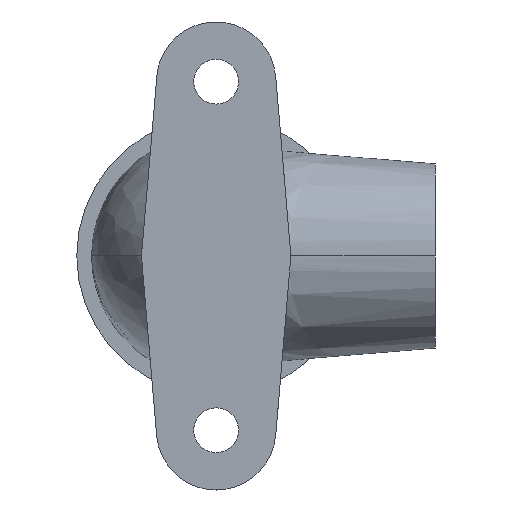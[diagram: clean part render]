
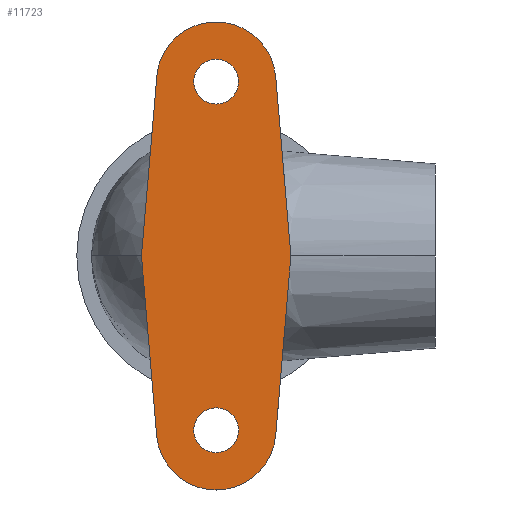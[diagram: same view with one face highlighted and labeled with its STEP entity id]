
A CAD part, front view. The second image highlights one B-rep face of the part: STEP entity #11723.
In plain terms, the highlighted planar face has unit normal (0, 1, 0).
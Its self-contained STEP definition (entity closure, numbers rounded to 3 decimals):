
#11617=CARTESIAN_POINT('',(-7.59,-10.0,0.0));
#11618=DIRECTION('',(0.0,1.0,0.0));
#11619=DIRECTION('',(0.0,0.0,1.0));
#11620=AXIS2_PLACEMENT_3D('',#11617,#11618,#11619);
#11621=PLANE('',#11620);
#11622=CARTESIAN_POINT('',(5.979,-10.0,-18.005));
#11623=VERTEX_POINT('',#11622);
#11624=CARTESIAN_POINT('',(0.,-10.0,-23.5));
#11625=VERTEX_POINT('',#11624);
#11626=CARTESIAN_POINT('',(0.,-10.0,-17.5));
#11627=DIRECTION('',(0.,1.0,0.));
#11628=DIRECTION('',(0.996,0.,-0.084));
#11629=AXIS2_PLACEMENT_3D('',#11626,#11627,#11628);
#11630=CIRCLE('',#11629,6.0);
#11631=EDGE_CURVE('',#11623,#11625,#11630,.T.);
#11632=ORIENTED_EDGE('',*,*,#11631,.T.);
#11633=CARTESIAN_POINT('',(-5.979,-10.0,-18.005));
#11634=VERTEX_POINT('',#11633);
#11635=CARTESIAN_POINT('',(0.0,-10.0,-17.5));
#11636=DIRECTION('',(0.0,1.0,0.0));
#11637=DIRECTION('',(0.0,0.0,-1.0));
#11638=AXIS2_PLACEMENT_3D('',#11635,#11636,#11637);
#11639=CIRCLE('',#11638,6.);
#11640=EDGE_CURVE('',#11625,#11634,#11639,.T.);
#11641=ORIENTED_EDGE('',*,*,#11640,.T.);
#11642=CARTESIAN_POINT('',(-7.5,-10.0,0.0));
#11643=VERTEX_POINT('',#11642);
#11644=CARTESIAN_POINT('',(-5.979,-10.0,-18.005));
#11645=DIRECTION('',(-0.084,0.0,0.996));
#11646=VECTOR('',#11645,18.069);
#11647=LINE('',#11644,#11646);
#11648=EDGE_CURVE('',#11634,#11643,#11647,.T.);
#11649=ORIENTED_EDGE('',*,*,#11648,.T.);
#11650=CARTESIAN_POINT('',(-6.,-10.0,17.5));
#11651=VERTEX_POINT('',#11650);
#11652=CARTESIAN_POINT('',(-7.5,-10.0,0.0));
#11653=DIRECTION('',(0.085,0.0,0.996));
#11654=VECTOR('',#11653,17.564);
#11655=LINE('',#11652,#11654);
#11656=EDGE_CURVE('',#11643,#11651,#11655,.T.);
#11657=ORIENTED_EDGE('',*,*,#11656,.T.);
#11658=CARTESIAN_POINT('',(5.979,-10.0,18.005));
#11659=VERTEX_POINT('',#11658);
#11660=CARTESIAN_POINT('',(0.0,-10.0,17.5));
#11661=DIRECTION('',(0.0,1.0,0.0));
#11662=DIRECTION('',(-1.0,0.0,0.0));
#11663=AXIS2_PLACEMENT_3D('',#11660,#11661,#11662);
#11664=CIRCLE('',#11663,6.);
#11665=EDGE_CURVE('',#11651,#11659,#11664,.T.);
#11666=ORIENTED_EDGE('',*,*,#11665,.T.);
#11667=CARTESIAN_POINT('',(7.5,-10.0,0.0));
#11668=VERTEX_POINT('',#11667);
#11669=CARTESIAN_POINT('',(5.979,-10.0,18.005));
#11670=DIRECTION('',(0.084,0.0,-0.996));
#11671=VECTOR('',#11670,18.069);
#11672=LINE('',#11669,#11671);
#11673=EDGE_CURVE('',#11659,#11668,#11672,.T.);
#11674=ORIENTED_EDGE('',*,*,#11673,.T.);
#11675=CARTESIAN_POINT('',(7.5,-10.0,0.0));
#11676=DIRECTION('',(-0.084,0.0,-0.996));
#11677=VECTOR('',#11676,18.069);
#11678=LINE('',#11675,#11677);
#11679=EDGE_CURVE('',#11668,#11623,#11678,.T.);
#11680=ORIENTED_EDGE('',*,*,#11679,.T.);
#11681=EDGE_LOOP('',(#11632,#11641,#11649,#11657,#11666,#11674,#11680));
#11682=FACE_OUTER_BOUND('',#11681,.T.);
#11683=CARTESIAN_POINT('',(0.,-10.0,19.75));
#11684=VERTEX_POINT('',#11683);
#11685=CARTESIAN_POINT('',(0.,-10.0,15.25));
#11686=VERTEX_POINT('',#11685);
#11687=CARTESIAN_POINT('',(0.0,-10.0,17.5));
#11688=DIRECTION('',(0.0,-1.0,0.0));
#11689=DIRECTION('',(0.0,0.0,1.0));
#11690=AXIS2_PLACEMENT_3D('',#11687,#11688,#11689);
#11691=CIRCLE('',#11690,2.25);
#11692=EDGE_CURVE('',#11684,#11686,#11691,.T.);
#11693=ORIENTED_EDGE('',*,*,#11692,.T.);
#11694=CARTESIAN_POINT('',(0.0,-10.0,17.5));
#11695=DIRECTION('',(0.0,-1.0,0.0));
#11696=DIRECTION('',(0.0,0.0,-1.0));
#11697=AXIS2_PLACEMENT_3D('',#11694,#11695,#11696);
#11698=CIRCLE('',#11697,2.25);
#11699=EDGE_CURVE('',#11686,#11684,#11698,.T.);
#11700=ORIENTED_EDGE('',*,*,#11699,.T.);
#11701=EDGE_LOOP('',(#11693,#11700));
#11702=FACE_BOUND('',#11701,.T.);
#11703=CARTESIAN_POINT('',(0.,-10.0,-15.25));
#11704=VERTEX_POINT('',#11703);
#11705=CARTESIAN_POINT('',(0.,-10.0,-19.75));
#11706=VERTEX_POINT('',#11705);
#11707=CARTESIAN_POINT('',(0.0,-10.0,-17.5));
#11708=DIRECTION('',(0.0,-1.0,0.0));
#11709=DIRECTION('',(0.0,0.0,1.0));
#11710=AXIS2_PLACEMENT_3D('',#11707,#11708,#11709);
#11711=CIRCLE('',#11710,2.25);
#11712=EDGE_CURVE('',#11704,#11706,#11711,.T.);
#11713=ORIENTED_EDGE('',*,*,#11712,.T.);
#11714=CARTESIAN_POINT('',(0.0,-10.0,-17.5));
#11715=DIRECTION('',(0.0,-1.0,0.0));
#11716=DIRECTION('',(0.0,0.0,-1.0));
#11717=AXIS2_PLACEMENT_3D('',#11714,#11715,#11716);
#11718=CIRCLE('',#11717,2.25);
#11719=EDGE_CURVE('',#11706,#11704,#11718,.T.);
#11720=ORIENTED_EDGE('',*,*,#11719,.T.);
#11721=EDGE_LOOP('',(#11713,#11720));
#11722=FACE_BOUND('',#11721,.T.);
#11723=ADVANCED_FACE('',(#11682,#11702,#11722),#11621,.T.);
